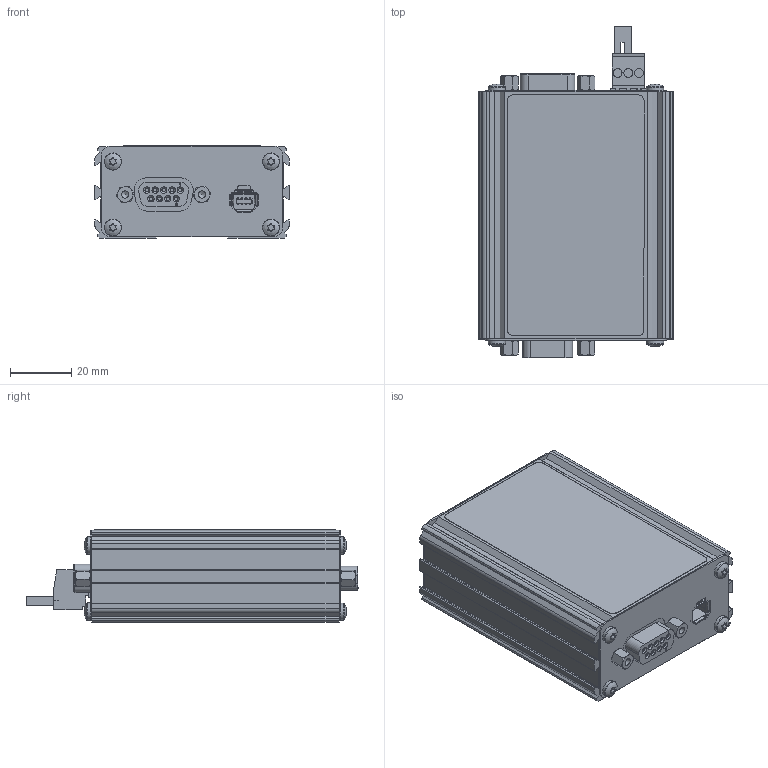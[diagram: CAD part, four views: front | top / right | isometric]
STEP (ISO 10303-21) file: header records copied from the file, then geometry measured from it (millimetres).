
FILE_DESCRIPTION(/* description */ (''),/* implementation_level */ '2;1');
FILE_NAME(/* name */ 'LA-5923-0020-01-A_EQ-CM1 ASSEMBLY.stp',/* time_stamp */ '2023-02-28T09:40:46+00:00',/* author */ (''),/* organization */ (''),/* preprocessor_version */ 'ST-DEVELOPER v16.7',/* originating_system */ 'SIEMENS PLM Software NX 1946',/* authorisation */ '');
FILE_SCHEMA (('AUTOMOTIVE_DESIGN { 1 0 10303 214 3 1 1 1 }'));
Products named in the file (1): LA-5923-0020-01-A_EQ-CM1 ASSEMBLY
Bounding box: 63.5 x 108.13 x 30.18 mm (x, y, z)
Volume: 43315.7 mm3; surface area: 59949.8 mm2
Topology: 22 solids, 22 shells, 2203 faces, 6023 edges, 3934 vertices
Faces by surface type: plane 1360, cylinder 683, cone 111, sphere 26, torus 20, bspline 2, extrusion 1
Full cylindrical faces by diameter (mm): 2.35 x4, 2.845 x8, 2.9 x3, 3 x12, 3.4 x8, 5.6 x8
Entity records: 71107 total; most frequent: CARTESIAN_POINT 14736, ORIENTED_EDGE 11748, DIRECTION 11534, EDGE_CURVE 5874, VECTOR 4154, LINE 4153, VERTEX_POINT 3893, AXIS2_PLACEMENT_3D 3690
